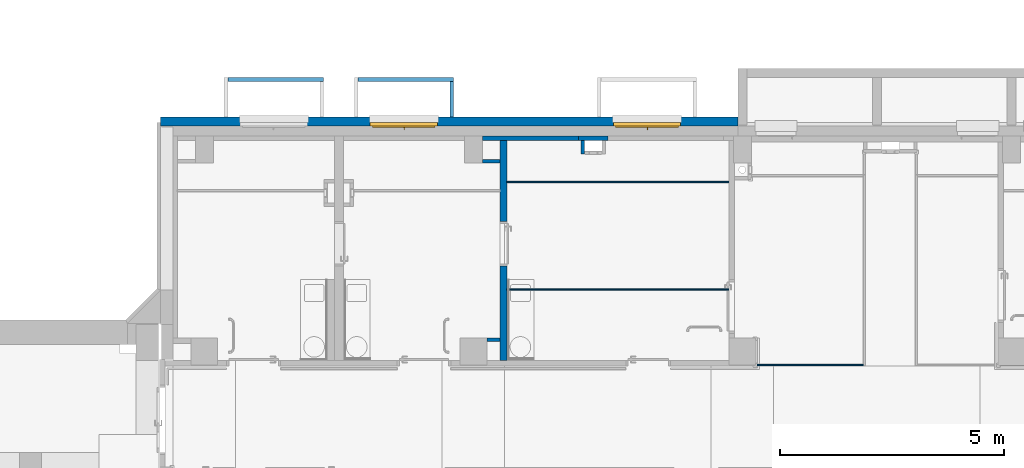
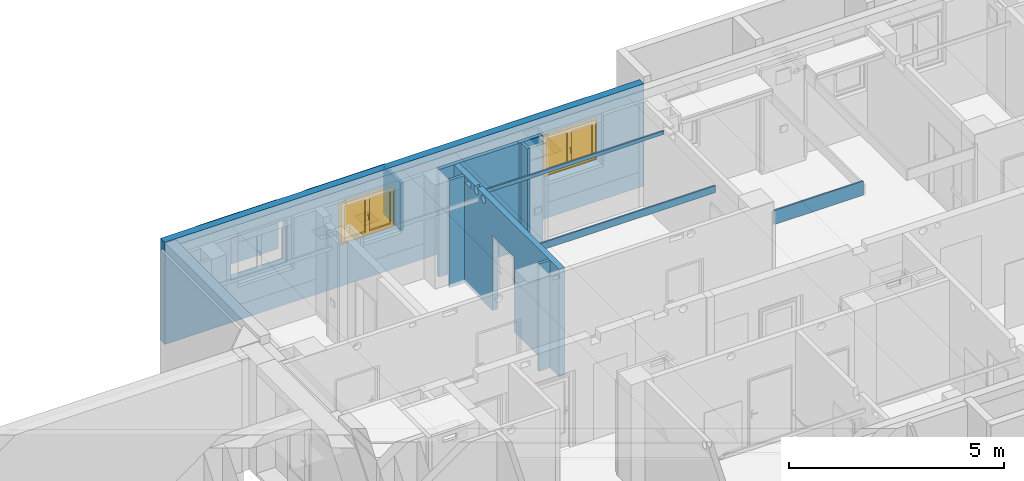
# One storey, part 24 of 84: 13 walls, 2 windows, 7 openings.
"""IFC4 building model written with IfcOpenShell, lengths in metres."""

import ifcopenshell
import ifcopenshell.guid

model = None  # the IFC model being written
_history = None  # IfcOwnerHistory: only IFC2X3 demands one
_inside = {}  # id of a spatial element -> (the spatial element, [elements in it])
_under = {}  # id of a project, library or spatial element -> (it, [spatial elements below it])
_declared = {}  # id of a project -> (the project, [libraries it declares])
_typed = {}  # id of a type object -> (the type object, [elements of that type])
_made_of = {}  # id of a material, layer set ... -> (it, [elements and type objects made of it])


def new_model(schema):
    """Start an empty IFC model of exactly this schema.

    Asked for "IFC4X3", IfcOpenShell would pick the latest addendum, in which some entities
    have other attributes; the version numbers below select the first issue.
    IFC2X3 requires an IfcOwnerHistory on every rooted entity: one is made here for all.
    """
    global model, _history
    if schema == "IFC4X3":
        model = ifcopenshell.file(schema_version=(4, 3, 0, 0))
    else:
        model = ifcopenshell.file(schema=schema)
    _inside.clear()
    _under.clear()
    _declared.clear()
    _typed.clear()
    _made_of.clear()
    _history = None
    if model.schema == "IFC2X3":
        org = make("IfcOrganization", Name="unknown")
        user = make(
            "IfcPersonAndOrganization",
            ThePerson=make("IfcPerson", FamilyName="unknown"),
            TheOrganization=org,
        )
        app = make(
            "IfcApplication",
            ApplicationDeveloper=org,
            Version="unknown",
            ApplicationFullName="unknown",
            ApplicationIdentifier="unknown",
        )
        _history = make(
            "IfcOwnerHistory",
            OwningUser=user,
            OwningApplication=app,
            ChangeAction="ADDED",
            CreationDate=0,
        )
    return model


def make(cls, **values):
    """One entity of the class cls with the attributes given. An attribute that is None is left unset."""
    return model.create_entity(
        cls, **{name: value for name, value in values.items() if value is not None}
    )


def entity(cls, *values):
    """Any entity or typed value of the class cls, its attributes in the order of the schema. None: left unset."""
    e = model.create_entity(cls)
    for i, value in enumerate(values):
        if value is not None:
            e[i] = value
    return e


def rooted(cls, **values):
    """An entity with a GlobalId (a new one), such as an element, a storey or a relation."""
    return make(cls, GlobalId=ifcopenshell.guid.new(), OwnerHistory=_history, **values)


def si_unit(unit_type, name, prefix=None):
    """IfcSIUnit, for example si_unit("LENGTHUNIT", "METRE", prefix="MILLI")."""
    return make("IfcSIUnit", UnitType=unit_type, Prefix=prefix, Name=name)


def converted_unit(unit_type, name, factor, base, dimensions=None, offset=None):
    """IfcConversionBasedUnit, such as the inch: factor (a typed value) times the base unit."""
    return make(
        "IfcConversionBasedUnit"
        if offset is None
        else "IfcConversionBasedUnitWithOffset",
        ConversionOffset=offset,
        Dimensions=None
        if dimensions is None
        else entity("IfcDimensionalExponents", *dimensions),
        UnitType=unit_type,
        Name=name,
        ConversionFactor=make(
            "IfcMeasureWithUnit", ValueComponent=factor, UnitComponent=base
        ),
    )


def derived_unit(unit_type, elements):
    """IfcDerivedUnit: a product of units, each with its exponent."""
    return make(
        "IfcDerivedUnit",
        Elements=[
            make("IfcDerivedUnitElement", Unit=unit, Exponent=power)
            for unit, power in elements
        ],
        UnitType=unit_type,
    )


def assignment(units):
    """IfcUnitAssignment: the units of a project."""
    return None if units is None else make("IfcUnitAssignment", Units=units)


def point(xyz):
    """IfcCartesianPoint."""
    return None if xyz is None else make("IfcCartesianPoint", Coordinates=xyz)


def direction(xyz):
    """IfcDirection."""
    return None if xyz is None else make("IfcDirection", DirectionRatios=xyz)


def frame(location, z_axis=None, x_axis=None):
    """IfcAxis2Placement3D, a coordinate frame: its origin and axes. An axis left out is left unset."""
    return make(
        "IfcAxis2Placement3D",
        Location=point(location),
        Axis=direction(z_axis),
        RefDirection=direction(x_axis),
    )


def frame_2d(location, x_axis=None):
    """IfcAxis2Placement2D, a coordinate frame in the plane: its origin and x axis."""
    return make(
        "IfcAxis2Placement2D", Location=point(location), RefDirection=direction(x_axis)
    )


def origin():
    """The frame at (0, 0, 0) with its axes left unset."""
    return frame((0.0, 0.0, 0.0))


def origin_with_axes():
    """The frame at (0, 0, 0) with the z axis (0, 0, 1) and the x axis (1, 0, 0) written out."""
    return frame((0.0, 0.0, 0.0), z_axis=(0.0, 0.0, 1.0), x_axis=(1.0, 0.0, 0.0))


def place(relative_to, where):
    """IfcLocalPlacement: puts the frame where relative to a parent placement (None: the world)."""
    return make(
        "IfcLocalPlacement", PlacementRelTo=relative_to, RelativePlacement=where
    )


def context(
    kind, dimensions, precision=None, world=None, true_north=None, identifier=None
):
    """IfcGeometricRepresentationContext, for example the 3D "Model" context."""
    return make(
        "IfcGeometricRepresentationContext",
        ContextIdentifier=identifier,
        ContextType=kind,
        CoordinateSpaceDimension=dimensions,
        Precision=precision,
        WorldCoordinateSystem=world,
        TrueNorth=true_north,
    )


def subcontext(parent, identifier, kind, view, scale=None):
    """IfcGeometricRepresentationSubContext, for example "Body" below "Model"."""
    return make(
        "IfcGeometricRepresentationSubContext",
        ContextIdentifier=identifier,
        ContextType=kind,
        ParentContext=parent,
        TargetScale=scale,
        TargetView=view,
    )


def project(units=None, contexts=None):
    """IfcProject with its units and contexts."""
    return rooted(
        "IfcProject",
        Name="project",
        RepresentationContexts=contexts,
        UnitsInContext=assignment(units),
    )


def spatial(cls, under=None, at=None, **own):
    """A site, building, storey or space (cls), placed at a placement, below another one or the project."""
    s = rooted(cls, ObjectPlacement=at, **own)
    if under is not None:
        _under.setdefault(under.id(), (under, []))[1].append(s)
    return s


def polyline(points):
    """IfcPolyline through the points."""
    return make("IfcPolyline", Points=[point(p) for p in points])


def profile(cls, at=None, kind="AREA", **sizes):
    """A parametric profile (cls). Its sizes go by their IFC names, for example OverallWidth=200.0."""
    return make(cls, ProfileType=kind, Position=at, **sizes)


def rectangle(**sizes):
    """IfcRectangleProfileDef."""
    return profile("IfcRectangleProfileDef", **sizes)


def outline(outer, holes=None, kind="AREA"):
    """IfcArbitraryClosedProfileDef: a profile drawn as a closed curve; with holes, ...WithVoids."""
    if holes is None:
        return make("IfcArbitraryClosedProfileDef", ProfileType=kind, OuterCurve=outer)
    return make(
        "IfcArbitraryProfileDefWithVoids",
        ProfileType=kind,
        OuterCurve=outer,
        InnerCurves=holes,
    )


def extrude(swept, where, along, depth):
    """IfcExtrudedAreaSolid: the profile swept, set in the frame where, extruded along a direction by depth."""
    return make(
        "IfcExtrudedAreaSolid",
        SweptArea=swept,
        Position=where,
        ExtrudedDirection=direction(along),
        Depth=depth,
    )


def faces_of(points, faces, orient=None, outer=None):
    """IfcFace entities. A face is a list of loops; a loop is a list of indices into points, from 0.

    orient and outer hold one flag for each loop. By default every Orientation is true, the
    first loop of a face is its IfcFaceOuterBound and the others are IfcFaceBound.
    """
    made = []
    for i, loops in enumerate(faces):
        bounds = []
        for j, loop in enumerate(loops):
            is_outer = j == 0 if outer is None else outer[i][j]
            bounds.append(
                make(
                    "IfcFaceOuterBound" if is_outer else "IfcFaceBound",
                    Bound=make("IfcPolyLoop", Polygon=[points[k] for k in loop]),
                    Orientation=True if orient is None else orient[i][j],
                )
            )
        made.append(make("IfcFace", Bounds=bounds))
    return made


def closed_shell(faces, orient=None, outer=None):
    """The faces of one IfcClosedShell. faceted_brep and surface_model build it on their shared points."""
    return ("IfcClosedShell", faces, orient, outer)


def open_shell(faces, orient=None, outer=None):
    """The faces of one IfcOpenShell. surface_model builds it on its shared points."""
    return ("IfcOpenShell", faces, orient, outer)


def surface_model(cls, points, shells):
    """IfcFaceBasedSurfaceModel or IfcShellBasedSurfaceModel (cls): surfaces that need not close."""
    shared = [point(p) for p in points]
    made = [make(c, CfsFaces=faces_of(shared, fs, o, b)) for c, fs, o, b in shells]
    if cls == "IfcFaceBasedSurfaceModel":
        return make(cls, FbsmFaces=made)
    return make(cls, SbsmBoundary=made)


def shape(context_of_items, identifier, shape_type, items):
    """IfcShapeRepresentation: the items that make up one representation, for example the "Body"."""
    return make(
        "IfcShapeRepresentation",
        ContextOfItems=context_of_items,
        RepresentationIdentifier=identifier,
        RepresentationType=shape_type,
        Items=items,
    )


def source(mapping_origin, context_of_items, identifier, shape_type, items):
    """IfcRepresentationMap: a shape defined once, which mapped items show again and again."""
    return make(
        "IfcRepresentationMap",
        MappingOrigin=mapping_origin,
        MappedRepresentation=shape(context_of_items, identifier, shape_type, items),
    )


def transform(
    local_origin,
    x_axis=None,
    y_axis=None,
    z_axis=None,
    scale=None,
    scale2=None,
    scale3=None,
    uniform=True,
):
    """IfcCartesianTransformationOperator3D, or its non-uniform kind. x_axis, y_axis, z_axis: its Axis1, 2, 3."""
    if uniform:
        return make(
            "IfcCartesianTransformationOperator3D",
            Axis1=direction(x_axis),
            Axis2=direction(y_axis),
            LocalOrigin=point(local_origin),
            Scale=scale,
            Axis3=direction(z_axis),
        )
    return make(
        "IfcCartesianTransformationOperator3DnonUniform",
        Axis1=direction(x_axis),
        Axis2=direction(y_axis),
        LocalOrigin=point(local_origin),
        Scale=scale,
        Axis3=direction(z_axis),
        Scale2=scale2,
        Scale3=scale3,
    )


def mapped(mapping_source, mapping_target):
    """IfcMappedItem: shows the shape of a source again, moved by a transform."""
    return make(
        "IfcMappedItem", MappingSource=mapping_source, MappingTarget=mapping_target
    )


def material(Name=None, Category=None):
    """IfcMaterial."""
    return make("IfcMaterial", Name=Name, Category=Category)


def layer(
    of_material, thickness, ventilated=None, Name=None, Category=None, Priority=None
):
    """IfcMaterialLayer: one layer of a wall or slab, of a material (None: an air gap)."""
    return make(
        "IfcMaterialLayer",
        Material=of_material,
        LayerThickness=thickness,
        IsVentilated=ventilated,
        Name=Name,
        Category=Category,
        Priority=Priority,
    )


def layer_set(layers, Name=None):
    """IfcMaterialLayerSet."""
    return make("IfcMaterialLayerSet", MaterialLayers=layers, LayerSetName=Name)


def layer_usage(for_layer_set, set_direction, sense, offset, extent=None):
    """IfcMaterialLayerSetUsage: how a layer set lies in its element."""
    return make(
        "IfcMaterialLayerSetUsage",
        ForLayerSet=for_layer_set,
        LayerSetDirection=set_direction,
        DirectionSense=sense,
        OffsetFromReferenceLine=offset,
        ReferenceExtent=extent,
    )


def made_of(thing, what):
    """Note that an element or type object is made of a material, layer set ...; save() writes the relation."""
    if what is not None:
        _made_of.setdefault(what.id(), (what, []))[1].append(thing)
    return thing


def element(
    cls,
    number,
    at=None,
    inside=None,
    cuts=None,
    type_object=None,
    material=None,
    context=None,
    identifier="Body",
    shape_type=None,
    held_by="IfcProductDefinitionShape",
    body=None,
    shapes=None,
    **own,
):
    """One element of the class cls, such as IfcWall. Its Tag is "e" and its number.

    at: its placement. inside: the storey or other place that contains it. cuts: it is an
    opening in that element (IfcRelVoidsElement). A single representation is given by context,
    identifier, shape_type and body (its items); several are given by shapes. held_by: the class
    of the entity that holds the representations. save() writes the other relations.
    """
    e = rooted(cls, Tag="e%d" % number, ObjectPlacement=at, **own)
    if body is not None:
        shapes = [shape(context, identifier, shape_type, body)]
    if shapes is not None:
        e.Representation = make(held_by, Representations=shapes)
    if inside is not None:
        _inside.setdefault(inside.id(), (inside, []))[1].append(e)
    if cuts is not None:
        rooted(
            "IfcRelVoidsElement", RelatingBuildingElement=cuts, RelatedOpeningElement=e
        )
    if type_object is not None:
        _typed.setdefault(type_object.id(), (type_object, []))[1].append(e)
    return made_of(e, material)


def fill(opening, filler):
    """IfcRelFillsElement: the door or window that sits in an opening."""
    return rooted(
        "IfcRelFillsElement",
        RelatingOpeningElement=opening,
        RelatedBuildingElement=filler,
    )


def aggregate(whole, parts):
    """IfcRelAggregates: a whole, such as a stair, and the parts it consists of."""
    return rooted("IfcRelAggregates", RelatingObject=whole, RelatedObjects=parts)


def save(model, path):
    """Write the relations noted so far, then the file.

    IfcRelAggregates (storeys below a building ...), IfcRelContainedInSpatialStructure (elements
    in a storey), IfcRelDefinesByType, IfcRelAssociatesMaterial and IfcRelDeclares: one each for
    every whole, place, type object, material and project.
    """
    for whole, parts in _under.values():
        aggregate(whole, parts)
    for where, things in _inside.values():
        rooted(
            "IfcRelContainedInSpatialStructure",
            RelatedElements=things,
            RelatingStructure=where,
        )
    for kind, things in _typed.values():
        rooted("IfcRelDefinesByType", RelatedObjects=things, RelatingType=kind)
    for what, things in _made_of.values():
        rooted("IfcRelAssociatesMaterial", RelatedObjects=things, RelatingMaterial=what)
    for by, libraries in _declared.values():
        rooted("IfcRelDeclares", RelatingContext=by, RelatedDefinitions=libraries)
    model.write(path)


model = new_model("IFC4")

# Units and contexts
model_context = context("Model", 3, precision=1e-05, world=origin())
body_context = subcontext(model_context, "Body", "Model", "MODEL_VIEW")
ifc_project = project(units=[si_unit("LENGTHUNIT", "METRE"), si_unit("AREAUNIT", "SQUARE_METRE"), si_unit("VOLUMEUNIT", "CUBIC_METRE"), si_unit("MASSUNIT", "GRAM", prefix="KILO"), converted_unit("PLANEANGLEUNIT", "DEGREE", entity("IfcPlaneAngleMeasure", 0.0174532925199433), si_unit("PLANEANGLEUNIT", "RADIAN"), dimensions=[0, 0, 0, 0, 0, 0, 0]), derived_unit("THERMALTRANSMITTANCEUNIT", [(si_unit("POWERUNIT", "WATT"), 1), (si_unit("THERMODYNAMICTEMPERATUREUNIT", "KELVIN"), -1), (si_unit("LENGTHUNIT", "METRE"), -2)]), derived_unit("VOLUMETRICFLOWRATEUNIT", [(si_unit("LENGTHUNIT", "METRE"), 3), (converted_unit("TIMEUNIT", "hour", entity("IfcTimeMeasure", 3600.0), si_unit("TIMEUNIT", "SECOND"), dimensions=[0, 0, 1, 0, 0, 0, 0]), -1), (si_unit("LENGTHUNIT", "METRE"), -1)])], contexts=[model_context])

# Site, building, storey
site_placement = place(None, origin())
site = spatial("IfcSite", under=ifc_project, at=site_placement, Name="3. ASŘ", CompositionType="ELEMENT")
building_placement = place(site_placement, origin())
building = spatial("IfcBuilding", under=site, at=building_placement, Name="Pavilon C", CompositionType="ELEMENT")
storey_placement = place(building_placement, frame((0.0, 0.0, -3.3)))
storey = spatial("IfcBuildingStorey", under=building, at=storey_placement, Name="Půdorys 1.PP", CompositionType="ELEMENT", Elevation=-3.3)

# Wall
ifc_material_1 = material(Name="PÓROBETONOVÉ ZDIVO")
ifc_layer_1 = layer(ifc_material_1, 0.1)
ifc_layer_set_1 = layer_set([ifc_layer_1])
ifc_layer_usage_1 = layer_usage(ifc_layer_set_1, "AXIS2", "POSITIVE", 0.0)
wall_1_placement = place(storey_placement, frame((8.35000000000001, 15.0, -0.1), z_axis=(0.0, 0.0, 1.0), x_axis=(-1.0, 0.0, 0.0)))
element("IfcWall", 1, at=wall_1_placement, inside=storey, material=ifc_layer_usage_1, Name="PÓROBETONOVÉ ZDIVO", context=body_context, shape_type="SweptSolid", body=[
    extrude(rectangle(XDim=2.15000000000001, YDim=0.1, at=frame_2d((1.075, 0.05), x_axis=(1.0, 0.0))), origin_with_axes(), (0.0, 0.0, 1.0), 3.05),
])

# Wall, openings, windows
ifc_material_2 = material(Name="PERIMETR")
ifc_layer_2 = layer(ifc_material_2, 0.2)
ifc_layer_set_2 = layer_set([ifc_layer_2])
ifc_layer_usage_2 = layer_usage(ifc_layer_set_2, "AXIS2", "POSITIVE", 0.0)
wall_2_placement = place(storey_placement, frame((-0.974999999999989, 15.225, 0.3), z_axis=(0.0, 0.0, 1.0), x_axis=(1.0, -5.65122921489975e-16, 0.0)))
wall_2 = element("IfcWall", 2, at=wall_2_placement, inside=storey, material=ifc_layer_usage_2, Name="PERIMETR", context=body_context, shape_type="SweptSolid", body=[
    extrude(rectangle(XDim=12.875, YDim=0.2, at=frame_2d((6.4375, 0.1), x_axis=(1.0, 0.0))), origin_with_axes(), (0.0, 0.0, 1.0), 2.9),
])
opening_1_placement = place(wall_2_placement, frame((3.27499999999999, 0.2, 1.2), z_axis=(0.0, -1.0, 0.0), x_axis=(0.0, 0.0, 1.0)))
element("IfcOpeningElement", 3, at=opening_1_placement, cuts=wall_2, Name="Okenní otvor", ObjectType="Opening", context=body_context, shape_type="SweptSolid", body=[
    extrude(outline(polyline([(0.0, 1.5), (1.2, 1.5), (1.2, 0.0), (0.0, 0.0), (0.0, 1.5)])), origin_with_axes(), (0.0, 0.0, 1.0), 0.2),
])
opening_2_placement = place(wall_2_placement, frame((6.17499999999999, 0.2, 1.2), z_axis=(0.0, -1.0, 0.0), x_axis=(0.0, 0.0, 1.0)))
opening_2 = element("IfcOpeningElement", 4, at=opening_2_placement, cuts=wall_2, Name="Okenní otvor", ObjectType="Opening", context=body_context, shape_type="SweptSolid", body=[
    extrude(outline(polyline([(0.0, 1.5), (1.2, 1.5), (1.2, 0.0), (0.0, 0.0), (0.0, 1.5)])), origin_with_axes(), (0.0, 0.0, 1.0), 0.2),
])
opening_3_placement = place(wall_2_placement, frame((11.6, 0.199999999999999, 1.2), z_axis=(0.0, -1.0, 0.0), x_axis=(0.0, 0.0, 1.0)))
opening_3 = element("IfcOpeningElement", 5, at=opening_3_placement, cuts=wall_2, Name="Okenní otvor", ObjectType="Opening", context=body_context, shape_type="SweptSolid", body=[
    extrude(outline(polyline([(0.0, 1.5), (1.2, 1.5), (1.2, 0.0), (0.0, 0.0), (0.0, 1.5)])), origin_with_axes(), (0.0, 0.0, 1.0), 0.2),
])
shared_shape = source(origin_with_axes(), body_context, "Body", "SurfaceModel", [
    surface_model("IfcShellBasedSurfaceModel", [(0.0, 0.172, 1.2), (0.0, 0.172, -5.02105187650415e-18), (0.08, 0.172, -5.02105187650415e-18), (0.08, 0.172, 1.2), (0.0, 0.0899999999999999, 5.02105187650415e-18), (0.0, 0.0900000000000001, 1.2), (0.08, 0.0900000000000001, 1.2), (0.08, 0.0899999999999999, 5.02105187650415e-18)], [closed_shell([[[0, 1, 2, 3]], [[4, 5, 6, 7]], [[1, 0, 5, 4]], [[2, 1, 4, 7]], [[3, 2, 7, 6]], [[0, 3, 6, 5]]], orient=[[False], [False], [False], [False], [False], [False]])]),
    surface_model("IfcShellBasedSurfaceModel", [(1.42, 0.172, 1.2), (1.42, 0.172, -5.02105187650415e-18), (1.5, 0.172, -5.02105187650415e-18), (1.5, 0.172, 1.2), (1.42, 0.0899999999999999, 5.02105187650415e-18), (1.42, 0.0900000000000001, 1.2), (1.5, 0.0900000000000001, 1.2), (1.5, 0.0899999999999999, 5.02105187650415e-18)], [closed_shell([[[0, 1, 2, 3]], [[4, 5, 6, 7]], [[1, 0, 5, 4]], [[2, 1, 4, 7]], [[3, 2, 7, 6]], [[0, 3, 6, 5]]], orient=[[False], [False], [False], [False], [False], [False]])]),
    surface_model("IfcShellBasedSurfaceModel", [(0.08, 0.172, 0.08), (0.08, 0.172, -5.02105187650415e-18), (1.42, 0.172, -5.02105187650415e-18), (1.42, 0.172, 0.08), (0.08, 0.0899999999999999, 5.02105187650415e-18), (0.08, 0.0899999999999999, 0.08), (1.42, 0.0899999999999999, 0.08), (1.42, 0.0899999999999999, 5.02105187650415e-18)], [closed_shell([[[0, 1, 2, 3]], [[4, 5, 6, 7]], [[1, 0, 5, 4]], [[2, 1, 4, 7]], [[3, 2, 7, 6]], [[0, 3, 6, 5]]], orient=[[False], [False], [False], [False], [False], [False]])]),
    surface_model("IfcShellBasedSurfaceModel", [(0.08, 0.172, 1.2), (0.08, 0.172, 1.12), (1.42, 0.172, 1.12), (1.42, 0.172, 1.2), (0.08, 0.0900000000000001, 1.12), (0.08, 0.0900000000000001, 1.2), (1.42, 0.0900000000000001, 1.2), (1.42, 0.0900000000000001, 1.12)], [closed_shell([[[0, 1, 2, 3]], [[4, 5, 6, 7]], [[1, 0, 5, 4]], [[2, 1, 4, 7]], [[3, 2, 7, 6]], [[0, 3, 6, 5]]], orient=[[False], [False], [False], [False], [False], [False]])]),
    surface_model("IfcShellBasedSurfaceModel", [(0.05, 0.145, 1.15), (0.05, 0.145, 0.05), (0.13, 0.145, 0.05), (0.13, 0.145, 1.15), (0.05, 0.0599999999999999, 0.05), (0.05, 0.0600000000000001, 1.15), (0.13, 0.0600000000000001, 1.15), (0.13, 0.0599999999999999, 0.05)], [closed_shell([[[0, 1, 2, 3]], [[4, 5, 6, 7]], [[1, 0, 5, 4]], [[2, 1, 4, 7]], [[3, 2, 7, 6]], [[0, 3, 6, 5]]], orient=[[False], [False], [False], [False], [False], [False]])]),
    surface_model("IfcShellBasedSurfaceModel", [(0.6995, 0.145, 1.15), (0.6995, 0.145, 0.05), (0.7795, 0.145, 0.05), (0.7795, 0.145, 1.15), (0.6995, 0.0599999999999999, 0.05), (0.6995, 0.0600000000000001, 1.15), (0.7795, 0.0600000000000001, 1.15), (0.7795, 0.0599999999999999, 0.05)], [closed_shell([[[0, 1, 2, 3]], [[4, 5, 6, 7]], [[1, 0, 5, 4]], [[2, 1, 4, 7]], [[3, 2, 7, 6]], [[0, 3, 6, 5]]], orient=[[False], [False], [False], [False], [False], [False]])]),
    surface_model("IfcShellBasedSurfaceModel", [(0.13, 0.145, 0.13), (0.13, 0.145, 0.05), (0.6995, 0.145, 0.05), (0.6995, 0.145, 0.13), (0.13, 0.0599999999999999, 0.05), (0.13, 0.0599999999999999, 0.13), (0.6995, 0.0599999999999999, 0.13), (0.6995, 0.0599999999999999, 0.05)], [closed_shell([[[0, 1, 2, 3]], [[4, 5, 6, 7]], [[1, 0, 5, 4]], [[2, 1, 4, 7]], [[3, 2, 7, 6]], [[0, 3, 6, 5]]], orient=[[False], [False], [False], [False], [False], [False]])]),
    surface_model("IfcShellBasedSurfaceModel", [(0.13, 0.145, 1.15), (0.13, 0.145, 1.07), (0.6995, 0.145, 1.07), (0.6995, 0.145, 1.15), (0.13, 0.0600000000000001, 1.07), (0.13, 0.0600000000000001, 1.15), (0.6995, 0.0600000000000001, 1.15), (0.6995, 0.0600000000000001, 1.07)], [closed_shell([[[0, 1, 2, 3]], [[4, 5, 6, 7]], [[1, 0, 5, 4]], [[2, 1, 4, 7]], [[3, 2, 7, 6]], [[0, 3, 6, 5]]], orient=[[False], [False], [False], [False], [False], [False]])]),
    surface_model("IfcShellBasedSurfaceModel", [(0.727, 0.06, 0.62), (0.727, 0.06, 0.58), (0.752, 0.06, 0.58), (0.752, 0.06, 0.62), (0.727, 0.05, 0.58), (0.727, 0.05, 0.62), (0.752, 0.05, 0.62), (0.752, 0.05, 0.58)], [closed_shell([[[0, 1, 2, 3]], [[4, 5, 6, 7]], [[1, 0, 5, 4]], [[2, 1, 4, 7]], [[3, 2, 7, 6]], [[0, 3, 6, 5]]], orient=[[False], [False], [False], [False], [False], [False]])]),
    surface_model("IfcShellBasedSurfaceModel", [(0.7495, 0.05, 0.6), (0.748160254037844, 0.05, 0.605), (0.7445, 0.05, 0.608660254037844), (0.7395, 0.05, 0.61), (0.7345, 0.05, 0.608660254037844), (0.730839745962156, 0.05, 0.605), (0.7295, 0.05, 0.6), (0.730839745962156, 0.05, 0.595), (0.7345, 0.05, 0.591339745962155), (0.7395, 0.05, 0.59), (0.7445, 0.05, 0.591339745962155), (0.748160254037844, 0.05, 0.595), (0.7495, 0.01, 0.6), (0.748160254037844, 0.00500000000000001, 0.605), (0.7445, 0.00133974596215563, 0.608660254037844), (0.7395, 2.8421709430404e-17, 0.61), (0.7345, 0.00133974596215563, 0.608660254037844), (0.730839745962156, 0.00500000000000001, 0.605), (0.7295, 0.01, 0.6), (0.730839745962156, 0.015, 0.595), (0.7345, 0.0186602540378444, 0.591339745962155), (0.7395, 0.02, 0.59), (0.7445, 0.0186602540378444, 0.591339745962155), (0.748160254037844, 0.015, 0.595), (0.7495, 0.01, 0.485), (0.748160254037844, 0.005, 0.485), (0.7445, 0.0013397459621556, 0.485), (0.7395, 0.0, 0.485), (0.7345, 0.0013397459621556, 0.485), (0.730839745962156, 0.005, 0.485), (0.7295, 0.01, 0.485), (0.730839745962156, 0.015, 0.485), (0.7345, 0.0186602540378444, 0.485), (0.7395, 0.02, 0.485), (0.7445, 0.0186602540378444, 0.485), (0.748160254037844, 0.015, 0.485)], [open_shell([[[0, 1, 2, 3, 4, 5, 6, 7, 8, 9, 10, 11]], [[0, 12, 13, 1]], [[1, 13, 14, 2]], [[2, 14, 15, 3]], [[3, 15, 16, 4]], [[4, 16, 17, 5]], [[5, 17, 18, 6]], [[6, 18, 19, 7]], [[7, 19, 20, 8]], [[8, 20, 21, 9]], [[9, 21, 22, 10]], [[10, 22, 23, 11]], [[11, 23, 12, 0]], [[12, 24, 25, 13]], [[13, 25, 26, 14]], [[14, 26, 27, 15]], [[15, 27, 28, 16]], [[16, 28, 29, 17]], [[17, 29, 30, 18]], [[18, 30, 31, 19]], [[19, 31, 32, 20]], [[20, 32, 33, 21]], [[21, 33, 34, 22]], [[22, 34, 35, 23]], [[23, 35, 24, 12]]], orient=[[False], [False], [False], [False], [False], [False], [False], [False], [False], [False], [False], [False], [False], [False], [False], [False], [False], [False], [False], [False], [False], [False], [False], [False], [False]])]),
    surface_model("IfcShellBasedSurfaceModel", [(0.7205, 0.145, 1.15), (0.7205, 0.145, 0.05), (0.8005, 0.145, 0.05), (0.8005, 0.145, 1.15), (0.7205, 0.0599999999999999, 0.05), (0.7205, 0.0600000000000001, 1.15), (0.8005, 0.0600000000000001, 1.15), (0.8005, 0.0599999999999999, 0.05)], [closed_shell([[[0, 1, 2, 3]], [[4, 5, 6, 7]], [[1, 0, 5, 4]], [[2, 1, 4, 7]], [[3, 2, 7, 6]], [[0, 3, 6, 5]]], orient=[[False], [False], [False], [False], [False], [False]])]),
    surface_model("IfcShellBasedSurfaceModel", [(1.37, 0.145, 1.15), (1.37, 0.145, 0.05), (1.45, 0.145, 0.05), (1.45, 0.145, 1.15), (1.37, 0.0599999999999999, 0.05), (1.37, 0.0600000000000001, 1.15), (1.45, 0.0600000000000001, 1.15), (1.45, 0.0599999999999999, 0.05)], [closed_shell([[[0, 1, 2, 3]], [[4, 5, 6, 7]], [[1, 0, 5, 4]], [[2, 1, 4, 7]], [[3, 2, 7, 6]], [[0, 3, 6, 5]]], orient=[[False], [False], [False], [False], [False], [False]])]),
    surface_model("IfcShellBasedSurfaceModel", [(0.8005, 0.145, 0.13), (0.8005, 0.145, 0.05), (1.37, 0.145, 0.05), (1.37, 0.145, 0.13), (0.8005, 0.0599999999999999, 0.05), (0.8005, 0.0599999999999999, 0.13), (1.37, 0.0599999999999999, 0.13), (1.37, 0.0599999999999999, 0.05)], [closed_shell([[[0, 1, 2, 3]], [[4, 5, 6, 7]], [[1, 0, 5, 4]], [[2, 1, 4, 7]], [[3, 2, 7, 6]], [[0, 3, 6, 5]]], orient=[[False], [False], [False], [False], [False], [False]])]),
    surface_model("IfcShellBasedSurfaceModel", [(0.8005, 0.145, 1.15), (0.8005, 0.145, 1.07), (1.37, 0.145, 1.07), (1.37, 0.145, 1.15), (0.8005, 0.0600000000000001, 1.07), (0.8005, 0.0600000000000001, 1.15), (1.37, 0.0600000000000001, 1.15), (1.37, 0.0600000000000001, 1.07)], [closed_shell([[[0, 1, 2, 3]], [[4, 5, 6, 7]], [[1, 0, 5, 4]], [[2, 1, 4, 7]], [[3, 2, 7, 6]], [[0, 3, 6, 5]]], orient=[[False], [False], [False], [False], [False], [False]])]),
    surface_model("IfcShellBasedSurfaceModel", [(0.13, 0.1025, 0.13), (0.6995, 0.1025, 0.13), (0.6995, 0.1025, 1.07), (0.13, 0.1025, 1.07)], [open_shell([[[0, 1, 2, 3]]], orient=[[False]])]),
    surface_model("IfcShellBasedSurfaceModel", [(0.8005, 0.1025, 0.13), (1.37, 0.1025, 0.13), (1.37, 0.1025, 1.07), (0.8005, 0.1025, 1.07)], [open_shell([[[0, 1, 2, 3]]], orient=[[False]])]),
])
window_1_placement = place(opening_2_placement, frame((0.0, -9.09494701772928e-16, 0.29), z_axis=(1.0, 0.0, 0.0), x_axis=(0.0, 1.0, 3.20193561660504e-16)))
window_1 = element("IfcWindow", 6, at=window_1_placement, inside=storey, Name="I.OP05", OverallHeight=1.2, OverallWidth=1.5, PartitioningType="USERDEFINED", PredefinedType="WINDOW", context=body_context, shape_type="MappedRepresentation", body=[
    mapped(shared_shape, transform((0.0, 0.0, 0.0), x_axis=(1.0, 0.0, 0.0), y_axis=(0.0, -1.0, 0.0), z_axis=(0.0, 0.0, 1.0), scale=1.0)),
])
fill(opening_2, window_1)
window_2_placement = place(opening_3_placement, frame((0.0, 0.0, 0.29), z_axis=(1.0, 0.0, 0.0), x_axis=(0.0, 1.0, 3.20193561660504e-16)))
window_2 = element("IfcWindow", 7, at=window_2_placement, inside=storey, Name="I.OP05", OverallHeight=1.2, OverallWidth=1.5, PartitioningType="USERDEFINED", PredefinedType="WINDOW", context=body_context, shape_type="MappedRepresentation", body=[
    mapped(shared_shape, transform((0.0, 0.0, 0.0), x_axis=(1.0, 0.0, 0.0), y_axis=(0.0, -1.0, 0.0), z_axis=(0.0, 0.0, 1.0), scale=1.0)),
])
fill(opening_3, window_2)

# Walls
ifc_material_3 = material(Name="YTONG 100")
ifc_layer_3 = layer(ifc_material_3, 0.1)
ifc_layer_set_3 = layer_set([ifc_layer_3])
ifc_layer_usage_3 = layer_usage(ifc_layer_set_3, "AXIS2", "POSITIVE", 0.0)
wall_3_placement = place(storey_placement, frame((8.35000000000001, 14.9, -0.1)))
element("IfcWall", 8, at=wall_3_placement, inside=storey, material=ifc_layer_usage_3, Name="YTONG 100", context=body_context, shape_type="SweptSolid", body=[
    extrude(rectangle(XDim=0.65, YDim=0.1, at=frame_2d((0.325, 0.05), x_axis=(1.0, 0.0))), origin_with_axes(), (0.0, 0.0, 1.0), 3.05),
])
ifc_material_4 = material(Name="POHLEDOVY BETON")
ifc_layer_4 = layer(ifc_material_4, 0.08)
ifc_layer_set_4 = layer_set([ifc_layer_4])
ifc_layer_usage_4 = layer_usage(ifc_layer_set_4, "AXIS2", "POSITIVE", 0.0)
wall_4_placement = place(storey_placement, frame((5.555, 15.425, 1.15), z_axis=(0.0, 0.0, 1.0), x_axis=(0.0, 1.0, 0.0)))
element("IfcWall", 9, at=wall_4_placement, inside=storey, material=ifc_layer_usage_4, Name="STĚNA ANGLICKÉHO DVORKU", context=body_context, shape_type="SweptSolid", body=[
    extrude(rectangle(XDim=0.800000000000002, YDim=0.08, at=frame_2d((0.400000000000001, 0.04), x_axis=(1.0, 0.0))), origin_with_axes(), (0.0, 0.0, 1.0), 1.35),
])
ifc_material_5 = material(Name="POHLEDOVY BETON")
ifc_layer_5 = layer(ifc_material_5, 0.08)
ifc_layer_set_5 = layer_set([ifc_layer_5])
ifc_layer_usage_5 = layer_usage(ifc_layer_set_5, "AXIS2", "POSITIVE", 0.0)
wall_5_placement = place(storey_placement, frame((5.555, 16.305, 1.15), z_axis=(0.0, 0.0, 1.0), x_axis=(-1.0, 0.0, 0.0)))
element("IfcWall", 10, at=wall_5_placement, inside=storey, material=ifc_layer_usage_5, Name="STĚNA ANGLICKÉHO DVORKU", context=body_context, shape_type="SweptSolid", body=[
    extrude(rectangle(XDim=2.13, YDim=0.08, at=frame_2d((1.065, 0.04), x_axis=(1.0, 0.0))), origin_with_axes(), (0.0, 0.0, 1.0), 1.35),
])
ifc_material_6 = material(Name="POHLEDOVY BETON")
ifc_layer_6 = layer(ifc_material_6, 0.08)
ifc_layer_set_6 = layer_set([ifc_layer_6])
ifc_layer_usage_6 = layer_usage(ifc_layer_set_6, "AXIS2", "POSITIVE", 0.0)
wall_6_placement = place(storey_placement, frame((2.655, 16.305, 1.15), z_axis=(0.0, 0.0, 1.0), x_axis=(-1.0, 0.0, 0.0)))
element("IfcWall", 11, at=wall_6_placement, inside=storey, material=ifc_layer_usage_6, Name="STĚNA ANGLICKÉHO DVORKU", context=body_context, shape_type="SweptSolid", body=[
    extrude(rectangle(XDim=2.13, YDim=0.08, at=frame_2d((1.065, 0.04), x_axis=(1.0, 0.0))), origin_with_axes(), (0.0, 0.0, 1.0), 1.35),
])
ifc_material_7 = material(Name="SDK SVISLA CAST PODHLEDU")
ifc_layer_7 = layer(ifc_material_7, 0.0400000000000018)
ifc_layer_set_7 = layer_set([ifc_layer_7])
ifc_layer_usage_7 = layer_usage(ifc_layer_set_7, "AXIS2", "POSITIVE", 0.0)
wall_7_placement = place(storey_placement, frame((12.3, 9.875, 2.3)))
element("IfcWall", 12, at=wall_7_placement, inside=storey, material=ifc_layer_usage_7, Name="SDK SVISLA CAST PODHLEDU", context=body_context, shape_type="SweptSolid", body=[
    extrude(rectangle(XDim=2.4, YDim=0.0400000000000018, at=frame_2d((1.2, 0.0200000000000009), x_axis=(1.0, 0.0))), origin_with_axes(), (0.0, 0.0, 1.0), 0.4),
])
ifc_material_8 = material(Name="SDK SVISLA CAST PODHLEDU")
ifc_layer_8 = layer(ifc_material_8, 0.0400000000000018)
ifc_layer_set_8 = layer_set([ifc_layer_8])
ifc_layer_usage_8 = layer_usage(ifc_layer_set_8, "AXIS2", "POSITIVE", 0.0)
wall_8_placement = place(storey_placement, frame((11.7, 11.5999978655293, 2.4), z_axis=(0.0, 0.0, 1.0), x_axis=(-1.0, 0.0, 0.0)))
element("IfcWall", 13, at=wall_8_placement, inside=storey, material=ifc_layer_usage_8, Name="SDK SVISLA CAST PODHLEDU", context=body_context, shape_type="SweptSolid", body=[
    extrude(rectangle(XDim=4.95, YDim=0.0400000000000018, at=frame_2d((2.475, 0.0200000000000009), x_axis=(1.0, 0.0))), origin_with_axes(), (0.0, 0.0, 1.0), 0.2),
])
ifc_material_9 = material(Name="SDK SVISLA CAST PODHLEDU")
ifc_layer_9 = layer(ifc_material_9, 0.0400000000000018)
ifc_layer_set_9 = layer_set([ifc_layer_9])
ifc_layer_usage_9 = layer_usage(ifc_layer_set_9, "AXIS2", "POSITIVE", 0.0)
wall_9_placement = place(storey_placement, frame((11.7, 13.9999999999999, 2.6), z_axis=(0.0, 0.0, 1.0), x_axis=(-1.0, 0.0, 0.0)))
element("IfcWall", 14, at=wall_9_placement, inside=storey, material=ifc_layer_usage_9, Name="SDK SVISLA CAST PODHLEDU", context=body_context, shape_type="SweptSolid", body=[
    extrude(rectangle(XDim=4.95, YDim=0.0400000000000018, at=frame_2d((2.475, 0.0200000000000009), x_axis=(1.0, 0.0))), origin_with_axes(), (0.0, 0.0, 1.0), 0.1),
])

# Wall, openings
ifc_material_10 = material(Name="SDK - 1 KCE + DVOJITÉ OPLÁŠTĚNÍ")
ifc_layer_10 = layer(ifc_material_10, 0.15)
ifc_layer_set_10 = layer_set([ifc_layer_10])
ifc_layer_usage_10 = layer_usage(ifc_layer_set_10, "AXIS2", "POSITIVE", 0.0)
wall_10_placement = place(storey_placement, frame((6.6, 14.9, -0.1), z_axis=(0.0, 0.0, 1.0), x_axis=(0.0, -1.0, 0.0)))
wall_10 = element("IfcWall", 15, at=wall_10_placement, inside=storey, material=ifc_layer_usage_10, Name="SDK - 1 KCE + DVOJITÉ OPLÁŠTĚNÍ", context=body_context, shape_type="SweptSolid", body=[
    extrude(rectangle(XDim=4.9, YDim=0.15, at=frame_2d((2.45, 0.075), x_axis=(1.0, 0.0))), origin_with_axes(), (0.0, 0.0, 1.0), 3.05),
])
opening_4_placement = place(wall_10_placement, frame((0.794222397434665, 0.15, 2.85), z_axis=(0.0, -1.0, 0.0), x_axis=(0.0, 0.0, 1.0)))
element("IfcOpeningElement", 16, at=opening_4_placement, cuts=wall_10, Name="UT", ObjectType="Opening", context=body_context, shape_type="SweptSolid", body=[
    extrude(outline(polyline([(0.0, 0.3), (0.15, 0.3), (0.15, 0.0), (0.0, 0.0), (0.0, 0.3)])), origin_with_axes(), (0.0, 0.0, 1.0), 0.15),
])
opening_5_placement = place(wall_10_placement, frame((1.13749770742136, 0.15, 2.85), z_axis=(0.0, -1.0, 0.0), x_axis=(0.0, 0.0, 1.0)))
element("IfcOpeningElement", 17, at=opening_5_placement, cuts=wall_10, Name="VZT", ObjectType="Opening", context=body_context, shape_type="SweptSolid", body=[
    extrude(outline(polyline([(0.104999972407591, 0.0), (0.0940244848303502, 0.000575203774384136), (0.0831692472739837, 0.00229450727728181), (0.0725531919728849, 0.00513907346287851), (0.0622926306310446, 0.00907773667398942), (0.052499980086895, 0.0140673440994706), (0.0432825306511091, 0.0200532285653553), (0.0347412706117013, 0.0269698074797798), (0.026969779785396, 0.0347413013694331), (0.0200532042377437, 0.0432825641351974), (0.0140673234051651, 0.0525000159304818), (0.00907771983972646, 0.0622926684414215), (0.0051390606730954, 0.0725532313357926), (0.00229449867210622, 0.0831692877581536), (0.000575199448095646, 0.0940245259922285), (0.0, 0.105000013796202), (0.000575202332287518, 0.11597550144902), (0.00229450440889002, 0.126830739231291), (0.00513906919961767, 0.137446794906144), (0.00907773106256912, 0.147707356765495), (0.0140673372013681, 0.157500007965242), (0.0200532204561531, 0.166717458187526), (0.0269697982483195, 0.175258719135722), (0.0347412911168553, 0.183030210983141), (0.0432825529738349, 0.189946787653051), (0.0525000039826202, 0.195932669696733), (0.0622926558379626, 0.200922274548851), (0.0725532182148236, 0.204860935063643), (0.0831692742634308, 0.207705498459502), (0.0940245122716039, 0.209424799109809), (0.104999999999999, 0.21), (0.115975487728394, 0.209424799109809), (0.126830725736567, 0.207705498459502), (0.137446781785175, 0.204860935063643), (0.147707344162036, 0.200922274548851), (0.157499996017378, 0.195932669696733), (0.166717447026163, 0.189946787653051), (0.175258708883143, 0.183030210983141), (0.183030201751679, 0.175258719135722), (0.189946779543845, 0.166717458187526), (0.19593266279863, 0.157500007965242), (0.200922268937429, 0.147707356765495), (0.20486093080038, 0.137446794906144), (0.207705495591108, 0.126830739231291), (0.209424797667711, 0.11597550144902), (0.209999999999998, 0.105000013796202), (0.209424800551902, 0.0940245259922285), (0.207705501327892, 0.0831692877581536), (0.204860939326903, 0.0725532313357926), (0.200922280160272, 0.0622926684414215), (0.195932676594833, 0.0525000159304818), (0.189946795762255, 0.0432825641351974), (0.183030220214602, 0.0347413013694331), (0.175258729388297, 0.0269698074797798), (0.166717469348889, 0.0200532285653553), (0.157500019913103, 0.0140673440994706), (0.147707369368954, 0.00907773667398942), (0.137446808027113, 0.00513907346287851), (0.126830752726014, 0.00229450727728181), (0.115975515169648, 0.000575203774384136), (0.104999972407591, 0.0)])), origin_with_axes(), (0.0, 0.0, 1.0), 0.15),
])
opening_6_placement = place(wall_10_placement, frame((1.47799075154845, 0.15, 2.8), z_axis=(0.0, -1.0, 0.0), x_axis=(0.0, 0.0, 1.0)))
element("IfcOpeningElement", 18, at=opening_6_placement, cuts=wall_10, Name="VZT", ObjectType="Opening", context=body_context, shape_type="SweptSolid", body=[
    extrude(outline(polyline([(0.104999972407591, 0.0), (0.0940244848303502, 0.000575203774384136), (0.0831692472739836, 0.00229450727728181), (0.0725531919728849, 0.00513907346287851), (0.0622926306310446, 0.00907773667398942), (0.052499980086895, 0.0140673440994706), (0.043282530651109, 0.0200532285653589), (0.0347412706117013, 0.0269698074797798), (0.026969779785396, 0.0347413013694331), (0.0200532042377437, 0.0432825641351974), (0.0140673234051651, 0.0525000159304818), (0.00907771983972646, 0.0622926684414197), (0.0051390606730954, 0.0725532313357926), (0.00229449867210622, 0.0831692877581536), (0.000575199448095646, 0.0940245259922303), (0.0, 0.105000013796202), (0.000575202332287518, 0.11597550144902), (0.00229450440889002, 0.126830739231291), (0.00513906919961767, 0.137446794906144), (0.00907773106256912, 0.147707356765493), (0.0140673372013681, 0.15750000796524), (0.0200532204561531, 0.166717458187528), (0.0269697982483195, 0.175258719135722), (0.0347412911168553, 0.183030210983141), (0.0432825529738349, 0.189946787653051), (0.0525000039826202, 0.195932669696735), (0.0622926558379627, 0.200922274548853), (0.0725532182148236, 0.204860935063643), (0.0831692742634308, 0.207705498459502), (0.0940245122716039, 0.209424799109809), (0.104999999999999, 0.21), (0.115975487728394, 0.209424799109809), (0.126830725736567, 0.207705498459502), (0.137446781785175, 0.204860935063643), (0.147707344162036, 0.200922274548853), (0.157499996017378, 0.195932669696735), (0.166717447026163, 0.189946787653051), (0.175258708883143, 0.183030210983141), (0.183030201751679, 0.175258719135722), (0.189946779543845, 0.166717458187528), (0.19593266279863, 0.15750000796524), (0.200922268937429, 0.147707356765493), (0.20486093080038, 0.137446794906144), (0.207705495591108, 0.126830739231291), (0.209424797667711, 0.11597550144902), (0.209999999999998, 0.105000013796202), (0.209424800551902, 0.0940245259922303), (0.207705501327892, 0.0831692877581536), (0.204860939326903, 0.0725532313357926), (0.200922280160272, 0.0622926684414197), (0.195932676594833, 0.0525000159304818), (0.189946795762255, 0.0432825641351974), (0.183030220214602, 0.0347413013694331), (0.175258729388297, 0.0269698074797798), (0.166717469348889, 0.0200532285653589), (0.157500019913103, 0.0140673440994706), (0.147707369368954, 0.00907773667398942), (0.137446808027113, 0.00513907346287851), (0.126830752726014, 0.00229450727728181), (0.115975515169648, 0.000575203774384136), (0.104999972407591, 0.0)])), origin_with_axes(), (0.0, 0.0, 1.0), 0.15),
])
opening_7_placement = place(wall_10_placement, frame((2.80000000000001, 0.15, 0.0), z_axis=(0.0, -1.0, 0.0), x_axis=(0.0, 0.0, 1.0)))
element("IfcOpeningElement", 19, at=opening_7_placement, cuts=wall_10, Name="Dveřní otvor", ObjectType="Opening", context=body_context, shape_type="SweptSolid", body=[
    extrude(outline(polyline([(0.0, 1.0), (2.12, 1.0), (2.12, 0.0), (0.0, 0.0), (0.0, 1.0)])), origin_with_axes(), (0.0, 0.0, 1.0), 0.15),
])

# Walls
ifc_material_11 = material(Name="SDK OPL. PROFESÍ/SDK OPL. BEZ PO")
ifc_layer_11 = layer(ifc_material_11, 0.075)
ifc_layer_set_11 = layer_set([ifc_layer_11])
ifc_layer_usage_11 = layer_usage(ifc_layer_set_11, "AXIS2", "POSITIVE", 0.0)
wall_11_placement = place(storey_placement, frame((6.2, 14.4, -0.1), z_axis=(0.0, 0.0, 1.0), x_axis=(1.0, -2.36468622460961e-13, 0.0)))
element("IfcWall", 20, at=wall_11_placement, inside=storey, material=ifc_layer_usage_11, Name="SDK OPL. PROFESÍ/SDK OPL. BEZ PO", context=body_context, shape_type="SweptSolid", body=[
    extrude(rectangle(XDim=0.4, YDim=0.075, at=frame_2d((0.2, 0.0375), x_axis=(1.0, 0.0))), origin_with_axes(), (0.0, 0.0, 1.0), 3.05),
])
ifc_material_12 = material(Name="SDK OPL. PROFESÍ/SDK OPL. BEZ PO")
ifc_layer_12 = layer(ifc_material_12, 0.075)
ifc_layer_set_12 = layer_set([ifc_layer_12])
ifc_layer_usage_12 = layer_usage(ifc_layer_set_12, "AXIS2", "POSITIVE", 0.0)
wall_12_placement = place(storey_placement, frame((6.6, 10.5, -0.1), z_axis=(0.0, 0.0, 1.0), x_axis=(-1.0, 0.0, 0.0)))
element("IfcWall", 21, at=wall_12_placement, inside=storey, material=ifc_layer_usage_12, Name="SDK OPL. PROFESÍ/SDK OPL. BEZ PO", context=body_context, shape_type="SweptSolid", body=[
    extrude(rectangle(XDim=0.299999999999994, YDim=0.075, at=frame_2d((0.149999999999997, 0.0375), x_axis=(1.0, 0.0))), origin_with_axes(), (0.0, 0.0, 1.0), 3.05),
])
ifc_material_13 = material(Name="SDK ŠACHTOVÁ STĚNA/SDK OPL. S PO")
ifc_layer_13 = layer(ifc_material_13, 0.075)
ifc_layer_set_13 = layer_set([ifc_layer_13])
ifc_layer_usage_13 = layer_usage(ifc_layer_set_13, "AXIS2", "POSITIVE", 0.0)
wall_13_placement = place(storey_placement, frame((8.47500000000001, 14.5999999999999, 0.0), z_axis=(0.0, 0.0, 1.0), x_axis=(0.0, 1.0, 0.0)))
element("IfcWall", 22, at=wall_13_placement, inside=storey, material=ifc_layer_usage_13, Name="SDK ŠACHTOVÁ STĚNA/SDK OPL. S PO", context=body_context, shape_type="SweptSolid", body=[
    extrude(rectangle(XDim=0.300000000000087, YDim=0.075, at=frame_2d((0.150000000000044, 0.0375), x_axis=(1.0, 0.0))), origin_with_axes(), (0.0, 0.0, 1.0), 2.95),
])

save(model, "model.ifc")
